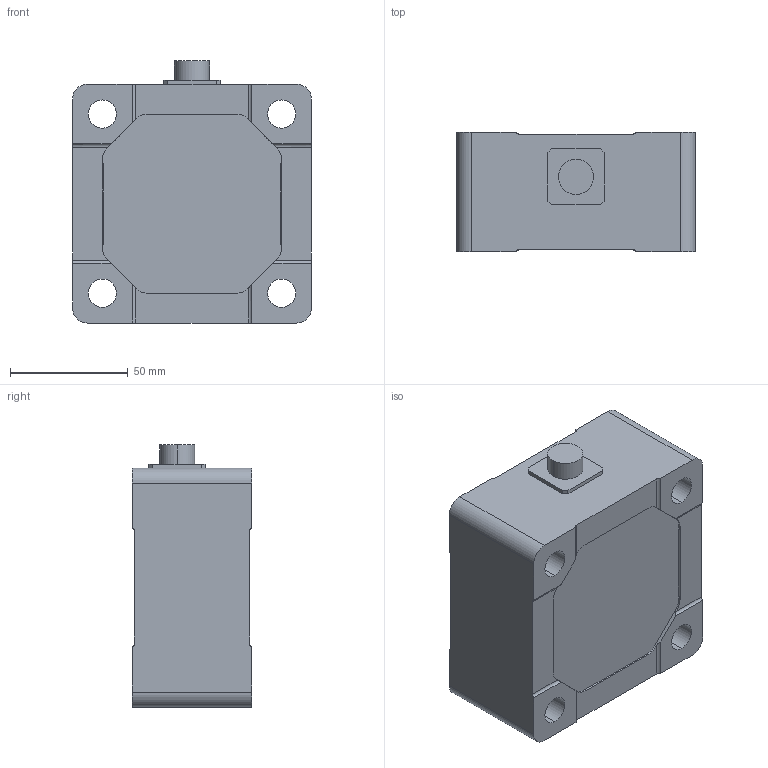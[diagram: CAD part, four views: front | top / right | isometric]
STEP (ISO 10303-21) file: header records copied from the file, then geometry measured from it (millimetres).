
FILE_DESCRIPTION (( 'STEP AP203' ), '1' );
FILE_NAME ('1007954.STEP', '2017-06-26T14:02:37', ( '' ), ( '' ), 'SwSTEP 2.0', 'SolidWorks 2014', '' );
FILE_SCHEMA (( 'CONFIG_CONTROL_DESIGN' ));
Length unit declared in the file: inch
Products named in the file (1): 1007954
Bounding box: 101.55 x 50.77 x 111.4 mm (x, y, z)
Volume: 480017.7 mm3; surface area: 48077.8 mm2
Topology: 1 solids, 1 shells, 96 faces, 274 edges, 182 vertices
Faces by surface type: cylinder 52, plane 44
Entity records: 3275 total; most frequent: CARTESIAN_POINT 657, ORIENTED_EDGE 548, DIRECTION 522, EDGE_CURVE 274, VERTEX_POINT 182, AXIS2_PLACEMENT_3D 175, VECTOR 172, LINE 172
